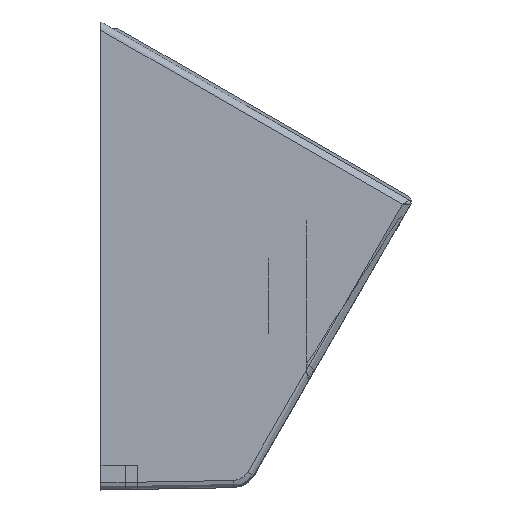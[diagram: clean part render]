
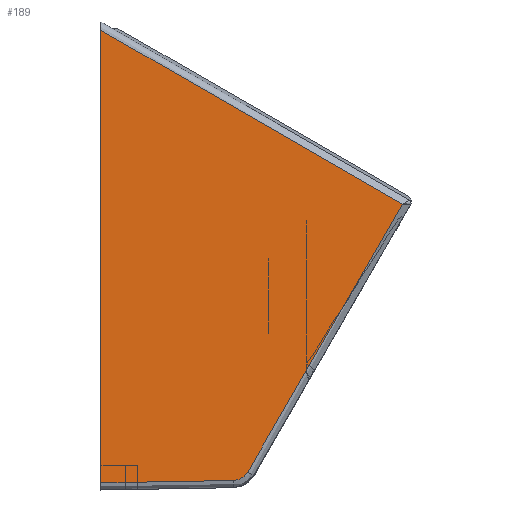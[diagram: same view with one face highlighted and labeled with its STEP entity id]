
A CAD part, left-side view. The second image highlights one B-rep face of the part: STEP entity #189.
In plain terms, the highlighted planar face has unit normal (-1, -0.018, 0).
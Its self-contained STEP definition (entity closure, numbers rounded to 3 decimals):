
#189=ADVANCED_FACE('',(#298),#251,.F.);
#251=PLANE('',#1517);
#298=FACE_OUTER_BOUND('',#366,.T.);
#366=EDGE_LOOP('',(#773,#774,#775,#776,#777));
#470=LINE('',#2136,#574);
#472=LINE('',#2144,#576);
#473=LINE('',#2146,#577);
#474=LINE('',#2148,#578);
#574=VECTOR('',#1771,1.);
#576=VECTOR('',#1779,1.);
#577=VECTOR('',#1780,1.);
#578=VECTOR('',#1781,1.);
#773=ORIENTED_EDGE('',*,*,#1271,.F.);
#774=ORIENTED_EDGE('',*,*,#1274,.F.);
#775=ORIENTED_EDGE('',*,*,#1275,.F.);
#776=ORIENTED_EDGE('',*,*,#1276,.F.);
#777=ORIENTED_EDGE('',*,*,#1277,.F.);
#1102=VERTEX_POINT('',#2135);
#1103=VERTEX_POINT('',#2137);
#1105=VERTEX_POINT('',#2143);
#1106=VERTEX_POINT('',#2145);
#1107=VERTEX_POINT('',#2147);
#1271=EDGE_CURVE('',#1102,#1103,#470,.T.);
#1274=EDGE_CURVE('',#1105,#1102,#1423,.T.);
#1275=EDGE_CURVE('',#1106,#1105,#472,.T.);
#1276=EDGE_CURVE('',#1107,#1106,#473,.T.);
#1277=EDGE_CURVE('',#1103,#1107,#474,.T.);
#1423=CIRCLE('',#1516,0.696);
#1516=AXIS2_PLACEMENT_3D('',#2142,#1777,#1778);
#1517=AXIS2_PLACEMENT_3D('',#2149,#1782,#1783);
#1771=DIRECTION('',(-0.017,1.,-0.017));
#1777=DIRECTION('',(1.,0.017,0.));
#1778=DIRECTION('',(0.015,-0.866,-0.5));
#1779=DIRECTION('',(-0.009,0.5,-0.866));
#1780=DIRECTION('',(0.015,-0.866,-0.5));
#1781=DIRECTION('',(0.,0.,1.));
#1782=DIRECTION('',(1.,0.017,0.));
#1783=DIRECTION('',(0.017,-1.,0.));
#2135=CARTESIAN_POINT('',(-59.904,-2.194,-9.202));
#2136=CARTESIAN_POINT('',(-59.904,-2.194,-9.202));
#2137=CARTESIAN_POINT('',(-59.999,3.289,-9.298));
#2142=CARTESIAN_POINT('',(-59.904,-2.182,-8.506));
#2143=CARTESIAN_POINT('',(-59.893,-2.784,-8.854));
#2144=CARTESIAN_POINT('',(-59.782,-9.182,2.227));
#2145=CARTESIAN_POINT('',(-59.782,-9.182,2.227));
#2146=CARTESIAN_POINT('',(-59.999,3.289,9.428));
#2147=CARTESIAN_POINT('',(-59.999,3.289,9.428));
#2148=CARTESIAN_POINT('',(-59.999,3.289,-9.298));
#2149=CARTESIAN_POINT('',(-59.771,-9.806,-10.234));
